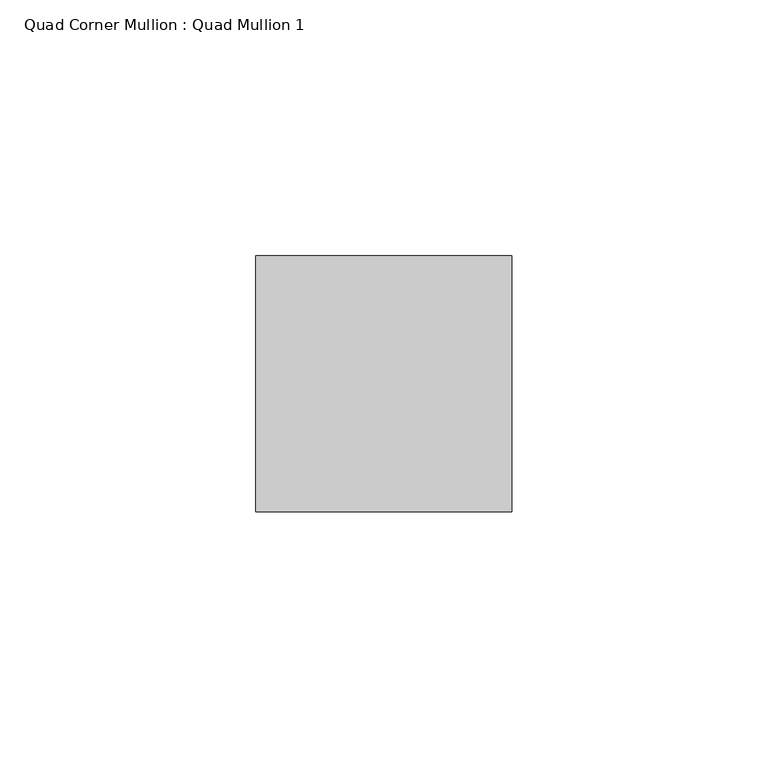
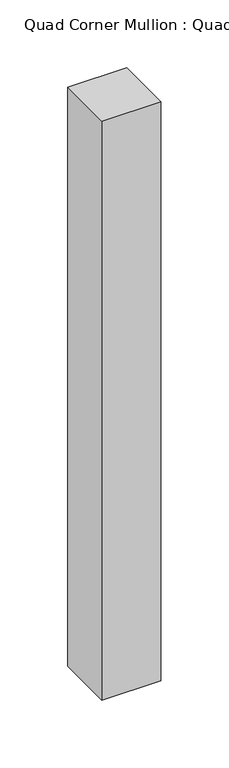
"""IFC4 building model written with IfcOpenShell, lengths in millimetres: member geometry, Quad Corner Mullion : Quad Mullion 1."""

from ifc_helpers import new_model, si_unit, frame, origin, place, context, project, spatial, polyline, outline, extrude, source, transform, mapped, element, save


def quad_corner_mullion_quad_mullion_1_9c94babd(model_context):
    return source(origin(), model_context, "Body", "SweptSolid", [
        extrude(outline(polyline([(25.0, 25.0), (25.0, -25.0), (-25.0, -25.0), (-25.0, 25.0), (25.0, 25.0)])), frame((0.0, 0.0, -520.0700978), z_axis=(0.0, 0.0, 1.0), x_axis=(1.0, 0.0, 0.0)), (0.0, 0.0, 1.0), 520.0700978),
    ])


if __name__ == "__main__":
    model = new_model("IFC4")
    model_context = context("Model", 3, world=origin())
    ifc_project = project(units=[si_unit("LENGTHUNIT", "METRE", prefix="MILLI")], contexts=[model_context])
    site = spatial("IfcSite", under=ifc_project)
    building = spatial("IfcBuilding", under=site)
    placement = place(None, origin())
    quad_corner_mullion_quad_mullion_1_shape = quad_corner_mullion_quad_mullion_1_9c94babd(model_context)
    element("IfcMember", 1, ObjectType="Quad Corner Mullion : Quad Mullion 1", at=placement, inside=building, context=model_context, shape_type="MappedRepresentation", body=[
        mapped(quad_corner_mullion_quad_mullion_1_shape, transform((0.0, 0.0, 0.0), x_axis=(1.0, 0.0, 0.0), y_axis=(0.0, 1.0, 0.0), z_axis=(0.0, 0.0, 1.0))),
    ])
    save(model, "model.ifc")
